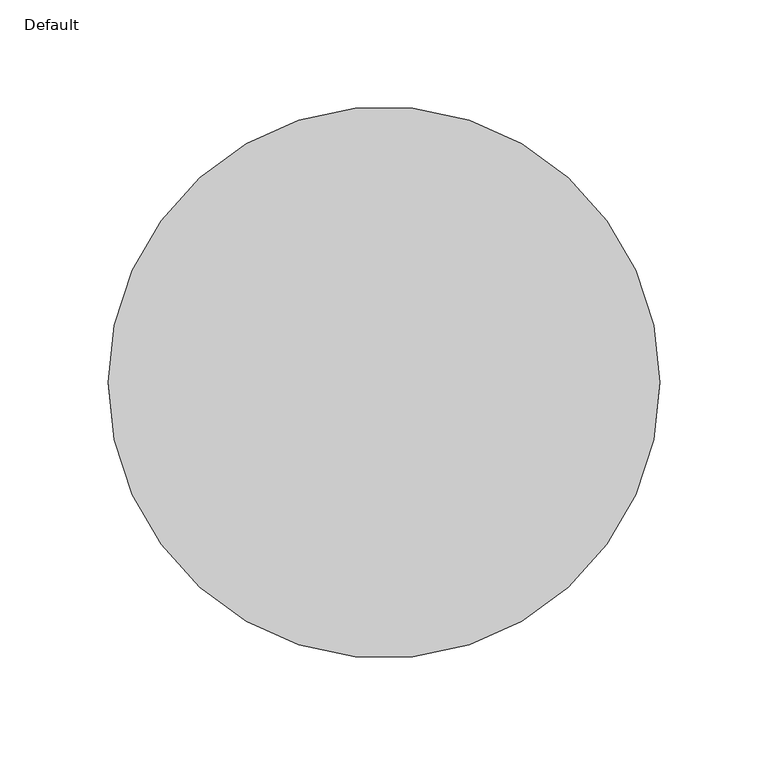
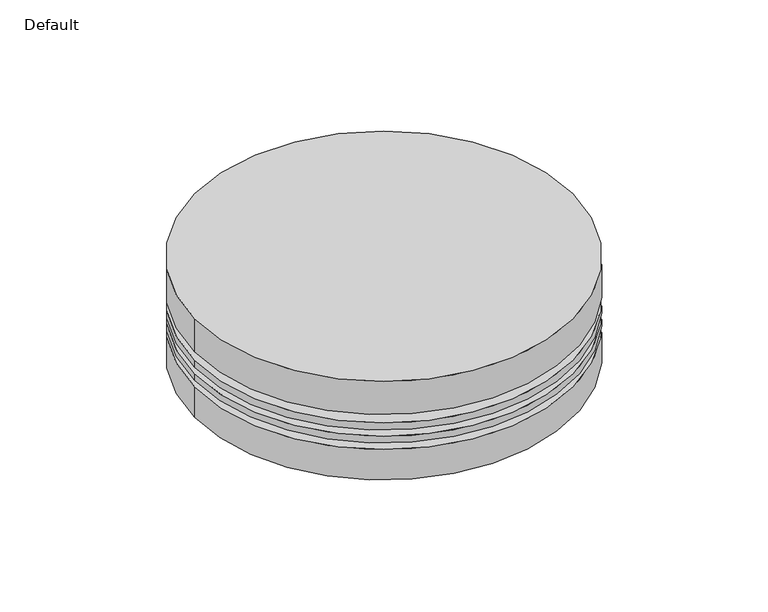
"""IFC4 building model written with IfcOpenShell, lengths in millimetres: proxy geometry, Smoke & Carbon Monoxide Detector - Floor : Default."""

from ifc_helpers import new_model, si_unit, point, frame, frame_2d, origin, place, context, project, spatial, circle_curve, trimmed, segment, composite_curve, outline, extrude, source, transform, mapped, element, save


def default_cac5e5bb(model_context):
    return source(origin(), model_context, "Body", "SweptSolid", [
        extrude(outline(composite_curve([segment(trimmed(circle_curve(frame_2d((0.0, -6.35)), 127.0), [point((-127.0, -6.35))], [point((127.0, -6.35))], False, "CARTESIAN"), True, "CONTINUOUS"), segment(trimmed(circle_curve(frame_2d((0.0, -6.35)), 127.0), [point((127.0, -6.35))], [point((-127.0, -6.35))], False, "CARTESIAN"), True, "CONTINUOUS")], self_intersect=False)), frame((0.0, 0.0, 1946.5575219), z_axis=(0.0, 0.0, 1.0), x_axis=(1.0, 0.0, 0.0)), (0.0, 0.0, 1.0), 5.1760655),
        extrude(outline(composite_curve([segment(trimmed(circle_curve(frame_2d((0.0, -6.35)), 82.55), [point((-82.55, -6.35))], [point((82.55, -6.35))], False, "CARTESIAN"), True, "CONTINUOUS"), segment(trimmed(circle_curve(frame_2d((0.0, -6.35)), 82.55), [point((82.55, -6.35))], [point((-82.55, -6.35))], False, "CARTESIAN"), True, "CONTINUOUS")], self_intersect=False)), frame((0.0, 0.0, 1942.2272), z_axis=(0.0, 0.0, 1.0), x_axis=(1.0, 0.0, 0.0)), (0.0, 0.0, 1.0), 4.3303219),
        extrude(outline(composite_curve([segment(trimmed(circle_curve(frame_2d((0.0, -6.35)), 127.0), [point((-127.0, -6.35))], [point((127.0, -6.35))], False, "CARTESIAN"), True, "CONTINUOUS"), segment(trimmed(circle_curve(frame_2d((0.0, -6.35)), 127.0), [point((127.0, -6.35))], [point((-127.0, -6.35))], False, "CARTESIAN"), True, "CONTINUOUS")], self_intersect=False)), frame((0.0, 0.0, 1937.4479926), z_axis=(0.0, 0.0, 1.0), x_axis=(1.0, 0.0, 0.0)), (0.0, 0.0, 1.0), 4.7792073),
        extrude(outline(composite_curve([segment(trimmed(circle_curve(frame_2d((0.0, -6.35)), 82.55), [point((-82.55, -6.35))], [point((82.55, -6.35))], False, "CARTESIAN"), True, "CONTINUOUS"), segment(trimmed(circle_curve(frame_2d((0.0, -6.35)), 82.55), [point((82.55, -6.35))], [point((-82.55, -6.35))], False, "CARTESIAN"), True, "CONTINUOUS")], self_intersect=False)), frame((0.0, 0.0, 1932.7625198), z_axis=(0.0, 0.0, 1.0), x_axis=(1.0, 0.0, 0.0)), (0.0, 0.0, 1.0), 4.6854728),
        extrude(outline(composite_curve([segment(trimmed(circle_curve(frame_2d((0.0, -6.35)), 127.0), [point((-127.0, -6.35))], [point((127.0, -6.35))], False, "CARTESIAN"), True, "CONTINUOUS"), segment(trimmed(circle_curve(frame_2d((0.0, -6.35)), 127.0), [point((127.0, -6.35))], [point((-127.0, -6.35))], False, "CARTESIAN"), True, "CONTINUOUS")], self_intersect=False)), frame((0.0, 0.0, 1911.1465604), z_axis=(0.0, 0.0, 1.0), x_axis=(1.0, 0.0, 0.0)), (0.0, 0.0, 1.0), 21.6159594),
        extrude(outline(composite_curve([segment(trimmed(circle_curve(frame_2d((76.3562758, -6.35)), 12.7), [point((63.6562758, -6.35))], [point((89.0562758, -6.35))], False, "CARTESIAN"), True, "CONTINUOUS"), segment(trimmed(circle_curve(frame_2d((76.3562758, -6.35)), 12.7), [point((89.0562758, -6.35))], [point((63.6562758, -6.35))], False, "CARTESIAN"), True, "CONTINUOUS")], self_intersect=False)), frame((0.0, 0.0, 1911.1465604), z_axis=(0.0, 0.0, 1.0), x_axis=(1.0, 0.0, 0.0)), (0.0, 0.0, 1.0), 4.8648358),
        extrude(outline(composite_curve([segment(trimmed(circle_curve(frame_2d((0.0, -6.35)), 88.9), [point((-88.9, -6.35))], [point((88.9, -6.35))], False, "CARTESIAN"), True, "CONTINUOUS"), segment(trimmed(circle_curve(frame_2d((0.0, -6.35)), 88.9), [point((88.9, -6.35))], [point((-88.9, -6.35))], False, "CARTESIAN"), True, "CONTINUOUS")], self_intersect=False)), frame((0.0, 0.0, 1951.7335874), z_axis=(0.0, 0.0, 1.0), x_axis=(1.0, 0.0, 0.0)), (0.0, 0.0, 1.0), 5.9155034),
        extrude(outline(composite_curve([segment(trimmed(circle_curve(frame_2d((0.0, -6.35)), 127.0), [point((-127.0, -6.35))], [point((127.0, -6.35))], False, "CARTESIAN"), True, "CONTINUOUS"), segment(trimmed(circle_curve(frame_2d((0.0, -6.35)), 127.0), [point((127.0, -6.35))], [point((-127.0, -6.35))], False, "CARTESIAN"), True, "CONTINUOUS")], self_intersect=False)), frame((0.0, 0.0, 1957.6490908), z_axis=(0.0, 0.0, 1.0), x_axis=(1.0, 0.0, 0.0)), (0.0, 0.0, 1.0), 23.5509092),
    ])


if __name__ == "__main__":
    model = new_model("IFC4")
    model_context = context("Model", 3, world=origin())
    ifc_project = project(units=[si_unit("LENGTHUNIT", "METRE", prefix="MILLI")], contexts=[model_context])
    site = spatial("IfcSite", under=ifc_project)
    building = spatial("IfcBuilding", under=site)
    placement = place(None, origin())
    default_shape = default_cac5e5bb(model_context)
    element("IfcBuildingElementProxy", 1, Name="Smoke & Carbon Monoxide Detector - Floor : Default", ObjectType="Smoke & Carbon Monoxide Detector - Floor : Default", at=placement, inside=building, context=model_context, shape_type="MappedRepresentation", body=[
        mapped(default_shape, transform((0.0, 0.0, 0.0), x_axis=(1.0, 0.0, 0.0), y_axis=(0.0, 1.0, 0.0), z_axis=(0.0, 0.0, 1.0))),
    ])
    save(model, "model.ifc")
